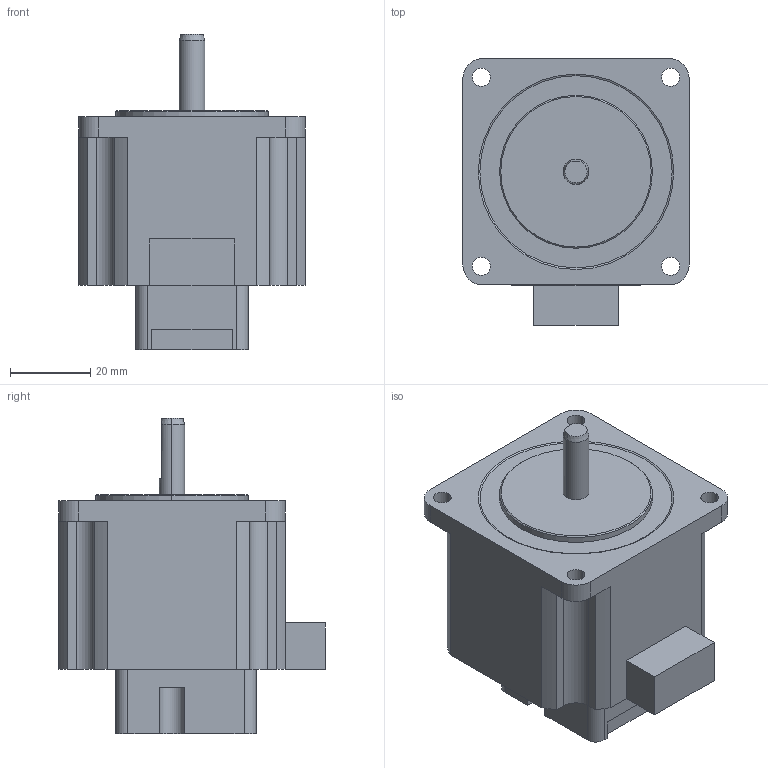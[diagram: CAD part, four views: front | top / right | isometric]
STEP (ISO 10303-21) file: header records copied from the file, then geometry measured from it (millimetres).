
FILE_DESCRIPTION (( 'STEP AP203' ), '1' );
FILE_NAME ('P-PMSA-U56D1ME-NL_3D.STEP', '2020-02-04T01:54:55', ( '' ), ( '' ), 'SwSTEP 2.0', 'SolidWorks 2018', '' );
FILE_SCHEMA (( 'CONFIG_CONTROL_DESIGN' ));
Length unit declared in the file: millimetre
Products named in the file (1): P-PMSA-U56D1ME-NL_3D
Bounding box: 56.4 x 66.4 x 78.6 mm (x, y, z)
Volume: 140430.2 mm3; surface area: 18645.2 mm2
Topology: 1 solids, 1 shells, 84 faces, 230 edges, 152 vertices
Faces by surface type: plane 42, cylinder 35, cone 7
Entity records: 2782 total; most frequent: DIRECTION 479, CARTESIAN_POINT 477, ORIENTED_EDGE 460, EDGE_CURVE 230, AXIS2_PLACEMENT_3D 166, VERTEX_POINT 152, VECTOR 147, LINE 147
